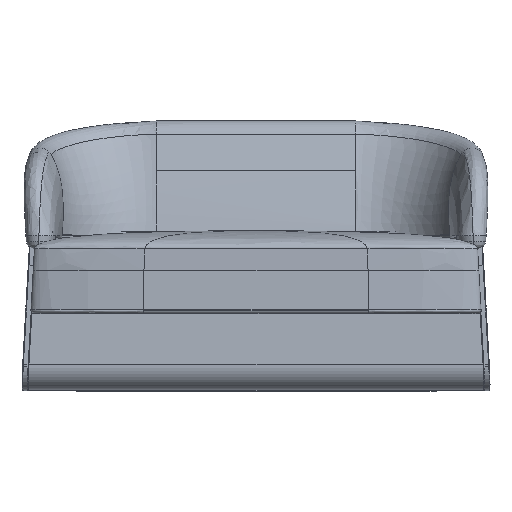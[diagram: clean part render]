
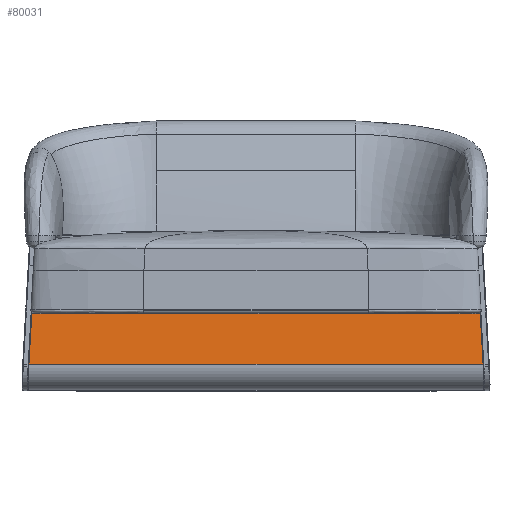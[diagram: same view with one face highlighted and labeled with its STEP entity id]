
A CAD part, top view. The second image highlights one B-rep face of the part: STEP entity #80031.
In plain terms, the highlighted planar face has unit normal (0, 0.087, 0.996).
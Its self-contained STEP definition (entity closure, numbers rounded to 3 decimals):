
#6090 = CARTESIAN_POINT ( 'NONE',  ( 654.311, 124.652, 337.001 ) ) ;
#12196 = ORIENTED_EDGE ( 'NONE', *, *, #59748, .T. ) ;
#13204 = CARTESIAN_POINT ( 'NONE',  ( 651.554, 173.272, 332.748 ) ) ;
#15245 = ORIENTED_EDGE ( 'NONE', *, *, #61867, .T. ) ;
#18276 = CARTESIAN_POINT ( 'NONE',  ( 648.797, 221.892, 328.494 ) ) ;
#23638 = ORIENTED_EDGE ( 'NONE', *, *, #48689, .F. ) ;
#24330 = CARTESIAN_POINT ( 'NONE',  ( -657.069, 76.031, 341.255 ) ) ;
#27679 = ORIENTED_EDGE ( 'NONE', *, *, #82791, .F. ) ;
#31186 = CARTESIAN_POINT ( 'NONE',  ( -651.554, 173.272, 332.748 ) ) ;
#32188 = DIRECTION ( 'NONE',  ( 1., 0., 0. ) ) ;
#36240 = VERTEX_POINT ( 'NONE', #24330 ) ;
#37354 = B_SPLINE_CURVE_WITH_KNOTS ( 'NONE', 3,
 ( #74147, #69819, #31186, #50949 ),
 .UNSPECIFIED., .F., .F.,
 ( 4, 4 ),
 ( 0., 0.147 ),
 .UNSPECIFIED. ) ;
#39724 = LINE ( 'NONE', #76692, #57235 ) ;
#40344 = VERTEX_POINT ( 'NONE', #60888 ) ;
#45713 = CARTESIAN_POINT ( 'NONE',  ( 657.069, 76.031, 341.255 ) ) ;
#46291 = DIRECTION ( 'NONE',  ( 1., 0., 0. ) ) ;
#46337 = VERTEX_POINT ( 'NONE', #45713 ) ;
#46815 = CARTESIAN_POINT ( 'NONE',  ( -648.797, 221.892, 328.494 ) ) ;
#48689 = EDGE_CURVE ( 'NONE', #51502, #40344, #39724, .T. ) ;
#50949 = CARTESIAN_POINT ( 'NONE',  ( -648.797, 221.892, 328.494 ) ) ;
#51502 = VERTEX_POINT ( 'NONE', #46815 ) ;
#53422 = LINE ( 'NONE', #59304, #66890 ) ;
#55289 = FACE_OUTER_BOUND ( 'NONE', #69144, .T. ) ;
#55714 = DIRECTION ( 'NONE',  ( 0., -0.996, 0.087 ) ) ;
#55717 = B_SPLINE_CURVE_WITH_KNOTS ( 'NONE', 3,
 ( #76210, #6090, #13204, #18276 ),
 .UNSPECIFIED., .F., .F.,
 ( 4, 4 ),
 ( 0., 0.147 ),
 .UNSPECIFIED. ) ;
#56544 = PLANE ( 'NONE',  #71693 ) ;
#57235 = VECTOR ( 'NONE', #32188, 1000. ) ;
#59304 = CARTESIAN_POINT ( 'NONE',  ( -737.685, 76.031, 341.255 ) ) ;
#59748 = EDGE_CURVE ( 'NONE', #46337, #40344, #55717, .T. ) ;
#60888 = CARTESIAN_POINT ( 'NONE',  ( 648.797, 221.892, 328.494 ) ) ;
#61867 = EDGE_CURVE ( 'NONE', #36240, #46337, #53422, .T. ) ;
#62420 = CARTESIAN_POINT ( 'NONE',  ( -737.685, 221.892, 328.494 ) ) ;
#66890 = VECTOR ( 'NONE', #46291, 1000. ) ;
#67876 = DIRECTION ( 'NONE',  ( 0., 0.087, 0.996 ) ) ;
#69144 = EDGE_LOOP ( 'NONE', ( #27679, #15245, #12196, #23638 ) ) ;
#69819 = CARTESIAN_POINT ( 'NONE',  ( -654.311, 124.652, 337.001 ) ) ;
#71693 = AXIS2_PLACEMENT_3D ( 'NONE', #62420, #67876, #55714 ) ;
#74147 = CARTESIAN_POINT ( 'NONE',  ( -657.069, 76.031, 341.255 ) ) ;
#76210 = CARTESIAN_POINT ( 'NONE',  ( 657.069, 76.031, 341.255 ) ) ;
#76692 = CARTESIAN_POINT ( 'NONE',  ( -737.685, 221.892, 328.494 ) ) ;
#80031 = ADVANCED_FACE ( 'NONE', ( #55289 ), #56544, .T. ) ;
#82791 = EDGE_CURVE ( 'NONE', #36240, #51502, #37354, .T. ) ;
